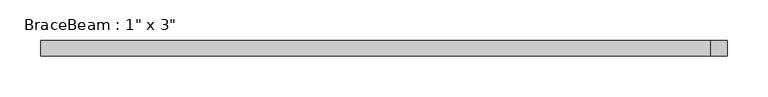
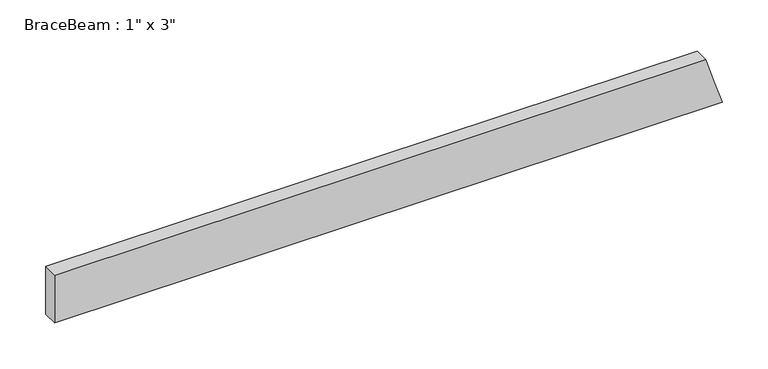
"""IFC4 building model written with IfcOpenShell, lengths in millimetres: beam geometry."""

from ifc_helpers import new_model, si_unit, origin, place, context, project, spatial, faceted_brep, source, transform, mapped, element, save


def beam_3d1db731(model_context):
    return source(origin(), model_context, "Body", "Brep", [
        faceted_brep([(-416.4366687, 9.525, -31.75), (425.1511462, 9.525, -31.75), (425.1511462, -9.525, -31.75), (-416.4366687, -9.525, -31.75), (414.788299, -9.525, 0.0), (404.4254517, -9.525, 31.75), (-416.4366687, -9.525, 31.75), (404.4254517, 9.525, 31.75), (-416.4366687, 9.525, 31.75), (414.788299, 9.525, 0.0)], [[[0, 1, 2, 3]], [[3, 2, 4, 5, 6]], [[6, 5, 7, 8]], [[8, 7, 9, 1, 0]], [[8, 0, 3, 6]], [[5, 4, 2, 1, 9, 7]]]),
    ])


if __name__ == "__main__":
    model = new_model("IFC4")
    model_context = context("Model", 3, world=origin())
    ifc_project = project(units=[si_unit("LENGTHUNIT", "METRE", prefix="MILLI")], contexts=[model_context])
    site = spatial("IfcSite", under=ifc_project)
    building = spatial("IfcBuilding", under=site)
    placement = place(None, origin())
    beam_shape = beam_3d1db731(model_context)
    element("IfcBeam", 1, ObjectType="BraceBeam : 1\" x 3\"", at=placement, inside=building, context=model_context, shape_type="MappedRepresentation", body=[
        mapped(beam_shape, transform((0.0, 0.0, 0.0), x_axis=(1.0, 0.0, 0.0), y_axis=(0.0, 1.0, 0.0), z_axis=(0.0, 0.0, 1.0))),
    ])
    save(model, "model.ifc")
